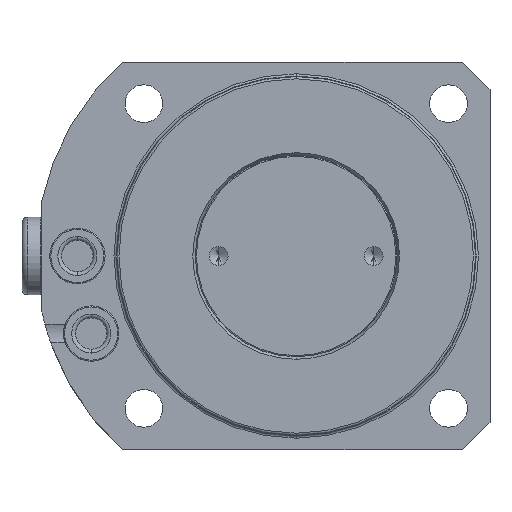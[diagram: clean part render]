
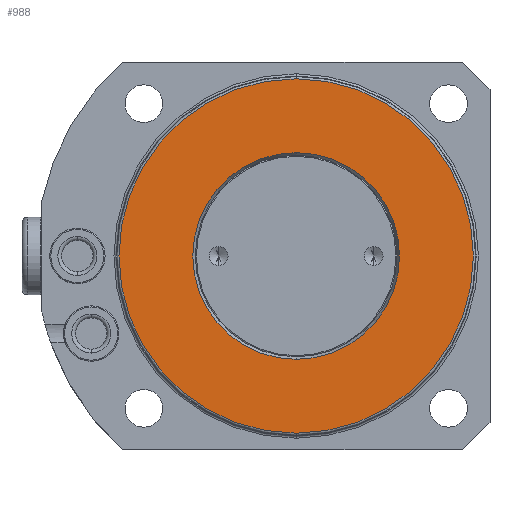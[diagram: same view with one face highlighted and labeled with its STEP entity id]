
A CAD part, front view. The second image highlights one B-rep face of the part: STEP entity #988.
In plain terms, the highlighted planar face has unit normal (0, -1, 0).
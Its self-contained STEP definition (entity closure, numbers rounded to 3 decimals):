
#369=PLANE('',#3960);
#435=FACE_BOUND('',#1480,.T.);
#436=FACE_BOUND('',#1481,.T.);
#988=ADVANCED_FACE('',(#435,#436),#369,.T.);
#1480=EDGE_LOOP('',(#2166,#2167));
#1481=EDGE_LOOP('',(#2168,#2169));
#2166=ORIENTED_EDGE('',*,*,#3156,.T.);
#2167=ORIENTED_EDGE('',*,*,#3215,.T.);
#2168=ORIENTED_EDGE('',*,*,#3214,.F.);
#2169=ORIENTED_EDGE('',*,*,#3160,.F.);
#2773=VERTEX_POINT('',#6250);
#2774=VERTEX_POINT('',#6252);
#2777=VERTEX_POINT('',#6259);
#2778=VERTEX_POINT('',#6261);
#3156=EDGE_CURVE('',#2774,#2773,#3520,.T.);
#3160=EDGE_CURVE('',#2777,#2778,#3523,.T.);
#3214=EDGE_CURVE('',#2778,#2777,#3547,.T.);
#3215=EDGE_CURVE('',#2773,#2774,#3548,.T.);
#3520=CIRCLE('',#3918,32.);
#3523=CIRCLE('',#3922,18.662);
#3547=CIRCLE('',#3957,18.662);
#3548=CIRCLE('',#3959,32.);
#3918=AXIS2_PLACEMENT_3D('',#6251,#4820,#4821);
#3922=AXIS2_PLACEMENT_3D('',#6260,#4829,#4830);
#3957=AXIS2_PLACEMENT_3D('',#6417,#4916,#4917);
#3959=AXIS2_PLACEMENT_3D('',#6419,#4920,#4921);
#3960=AXIS2_PLACEMENT_3D('',#6420,#4922,#4923);
#4820=DIRECTION('',(0.,-1.,0.));
#4821=DIRECTION('',(0.,0.,-1.));
#4829=DIRECTION('',(0.,-1.,0.));
#4830=DIRECTION('',(0.,0.,-1.));
#4916=DIRECTION('',(0.,-1.,0.));
#4917=DIRECTION('',(0.,0.,-1.));
#4920=DIRECTION('',(0.,-1.,0.));
#4921=DIRECTION('',(0.,0.,-1.));
#4922=DIRECTION('',(0.,-1.,0.));
#4923=DIRECTION('',(0.,0.,1.));
#6250=CARTESIAN_POINT('',(0.,1.705,32.));
#6251=CARTESIAN_POINT('',(0.,1.705,0.));
#6252=CARTESIAN_POINT('',(0.,1.705,-32.));
#6259=CARTESIAN_POINT('',(0.,1.705,18.662));
#6260=CARTESIAN_POINT('',(0.,1.705,0.));
#6261=CARTESIAN_POINT('',(0.,1.705,-18.662));
#6417=CARTESIAN_POINT('',(0.,1.705,0.));
#6419=CARTESIAN_POINT('',(0.,1.705,0.));
#6420=CARTESIAN_POINT('',(0.,1.705,0.));
